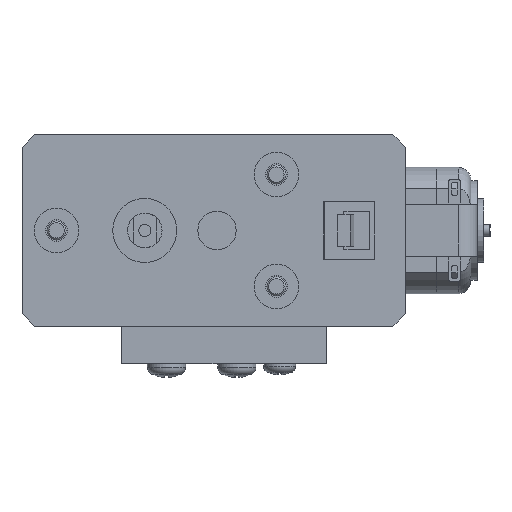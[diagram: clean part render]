
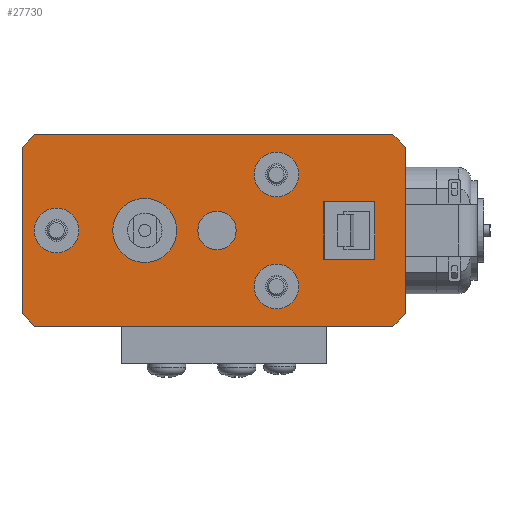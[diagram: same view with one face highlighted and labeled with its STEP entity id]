
A CAD part, front view. The second image highlights one B-rep face of the part: STEP entity #27730.
In plain terms, the highlighted planar face has unit normal (0, -1, 0).
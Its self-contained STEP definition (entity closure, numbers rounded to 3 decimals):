
#1699=FACE_BOUND('',#4503,.T.);
#1700=FACE_BOUND('',#4504,.T.);
#1701=FACE_BOUND('',#4505,.T.);
#1702=FACE_BOUND('',#4506,.T.);
#1703=FACE_BOUND('',#4507,.T.);
#1704=FACE_BOUND('',#4508,.T.);
#1892=PLANE('',#29781);
#2942=FACE_OUTER_BOUND('',#4502,.T.);
#4502=EDGE_LOOP('',(#19361,#19362,#19363,#19364,#19365,#19366,#19367,#19368));
#4503=EDGE_LOOP('',(#19369));
#4504=EDGE_LOOP('',(#19370));
#4505=EDGE_LOOP('',(#19371));
#4506=EDGE_LOOP('',(#19372,#19373,#19374,#19375));
#4507=EDGE_LOOP('',(#19376));
#4508=EDGE_LOOP('',(#19377));
#6236=LINE('',#36974,#9139);
#6242=LINE('',#36986,#9145);
#6246=LINE('',#36993,#9149);
#6256=LINE('',#37041,#9159);
#6258=LINE('',#37045,#9161);
#6261=LINE('',#37051,#9164);
#6262=LINE('',#37053,#9165);
#6263=LINE('',#37055,#9166);
#6264=LINE('',#37056,#9167);
#6265=LINE('',#37057,#9168);
#6266=LINE('',#37059,#9169);
#6267=LINE('',#37060,#9170);
#9139=VECTOR('',#31213,10.);
#9145=VECTOR('',#31221,10.);
#9149=VECTOR('',#31227,10.);
#9159=VECTOR('',#31281,10.);
#9161=VECTOR('',#31285,10.);
#9164=VECTOR('',#31290,10.);
#9165=VECTOR('',#31291,10.);
#9166=VECTOR('',#31292,10.);
#9167=VECTOR('',#31293,10.);
#9168=VECTOR('',#31294,10.);
#9169=VECTOR('',#31295,10.);
#9170=VECTOR('',#31296,10.);
#12032=CIRCLE('',#29762,3.5);
#12036=CIRCLE('',#29769,3.5);
#12040=CIRCLE('',#29776,3.5);
#12042=CIRCLE('',#29782,5.);
#12043=CIRCLE('',#29783,3.);
#12314=VERTEX_POINT('',#36971);
#12315=VERTEX_POINT('',#36973);
#12319=VERTEX_POINT('',#36983);
#12320=VERTEX_POINT('',#36985);
#12322=VERTEX_POINT('',#36991);
#12325=VERTEX_POINT('',#37001);
#12329=VERTEX_POINT('',#37014);
#12333=VERTEX_POINT('',#37027);
#12337=VERTEX_POINT('',#37038);
#12338=VERTEX_POINT('',#37040);
#12339=VERTEX_POINT('',#37044);
#12341=VERTEX_POINT('',#37050);
#12342=VERTEX_POINT('',#37052);
#12343=VERTEX_POINT('',#37054);
#12344=VERTEX_POINT('',#37058);
#12345=VERTEX_POINT('',#37061);
#12346=VERTEX_POINT('',#37063);
#15100=EDGE_CURVE('',#12315,#12314,#6236,.T.);
#15106=EDGE_CURVE('',#12319,#12320,#6242,.T.);
#15110=EDGE_CURVE('',#12314,#12322,#6246,.T.);
#15114=EDGE_CURVE('',#12325,#12325,#12032,.T.);
#15120=EDGE_CURVE('',#12329,#12329,#12036,.T.);
#15126=EDGE_CURVE('',#12333,#12333,#12040,.T.);
#15132=EDGE_CURVE('',#12337,#12338,#6256,.T.);
#15134=EDGE_CURVE('',#12338,#12339,#6258,.T.);
#15137=EDGE_CURVE('',#12341,#12337,#6261,.T.);
#15138=EDGE_CURVE('',#12342,#12341,#6262,.T.);
#15139=EDGE_CURVE('',#12343,#12342,#6263,.T.);
#15140=EDGE_CURVE('',#12320,#12343,#6264,.T.);
#15141=EDGE_CURVE('',#12339,#12319,#6265,.T.);
#15142=EDGE_CURVE('',#12322,#12344,#6266,.T.);
#15143=EDGE_CURVE('',#12344,#12315,#6267,.T.);
#15144=EDGE_CURVE('',#12345,#12345,#12042,.T.);
#15145=EDGE_CURVE('',#12346,#12346,#12043,.T.);
#19361=ORIENTED_EDGE('',*,*,#15132,.F.);
#19362=ORIENTED_EDGE('',*,*,#15137,.F.);
#19363=ORIENTED_EDGE('',*,*,#15138,.F.);
#19364=ORIENTED_EDGE('',*,*,#15139,.F.);
#19365=ORIENTED_EDGE('',*,*,#15140,.F.);
#19366=ORIENTED_EDGE('',*,*,#15106,.F.);
#19367=ORIENTED_EDGE('',*,*,#15141,.F.);
#19368=ORIENTED_EDGE('',*,*,#15134,.F.);
#19369=ORIENTED_EDGE('',*,*,#15114,.T.);
#19370=ORIENTED_EDGE('',*,*,#15120,.T.);
#19371=ORIENTED_EDGE('',*,*,#15126,.T.);
#19372=ORIENTED_EDGE('',*,*,#15142,.T.);
#19373=ORIENTED_EDGE('',*,*,#15143,.T.);
#19374=ORIENTED_EDGE('',*,*,#15100,.T.);
#19375=ORIENTED_EDGE('',*,*,#15110,.T.);
#19376=ORIENTED_EDGE('',*,*,#15144,.T.);
#19377=ORIENTED_EDGE('',*,*,#15145,.T.);
#27730=ADVANCED_FACE('',(#2942,#1699,#1700,#1701,#1702,#1703,#1704),#1892,
 .F.);
#29762=AXIS2_PLACEMENT_3D('',#37002,#31237,#31238);
#29769=AXIS2_PLACEMENT_3D('',#37015,#31253,#31254);
#29776=AXIS2_PLACEMENT_3D('',#37028,#31269,#31270);
#29781=AXIS2_PLACEMENT_3D('',#37049,#31288,#31289);
#29782=AXIS2_PLACEMENT_3D('',#37062,#31297,#31298);
#29783=AXIS2_PLACEMENT_3D('',#37064,#31299,#31300);
#31213=DIRECTION('',(0.,0.,1.));
#31221=DIRECTION('',(0.,0.,-1.));
#31227=DIRECTION('',(1.,0.,0.));
#31237=DIRECTION('center_axis',(0.,1.,0.));
#31238=DIRECTION('ref_axis',(1.,0.,0.));
#31253=DIRECTION('center_axis',(0.,1.,0.));
#31254=DIRECTION('ref_axis',(1.,0.,0.));
#31269=DIRECTION('center_axis',(0.,1.,0.));
#31270=DIRECTION('ref_axis',(1.,0.,0.));
#31281=DIRECTION('',(0.707,0.,0.707));
#31285=DIRECTION('',(1.,0.,0.));
#31288=DIRECTION('center_axis',(0.,1.,0.));
#31289=DIRECTION('ref_axis',(0.,0.,1.));
#31290=DIRECTION('',(0.,0.,1.));
#31291=DIRECTION('',(-0.707,0.,0.707));
#31292=DIRECTION('',(-1.,0.,0.));
#31293=DIRECTION('',(-0.707,0.,-0.707));
#31294=DIRECTION('',(0.707,0.,-0.707));
#31295=DIRECTION('',(0.,0.,-1.));
#31296=DIRECTION('',(-1.,0.,0.));
#31297=DIRECTION('center_axis',(0.,1.,0.));
#31298=DIRECTION('ref_axis',(1.,0.,0.));
#31299=DIRECTION('center_axis',(0.,1.,0.));
#31300=DIRECTION('ref_axis',(1.,0.,0.));
#36971=CARTESIAN_POINT('',(17.185,0.,4.5));
#36973=CARTESIAN_POINT('',(17.185,0.,-4.5));
#36974=CARTESIAN_POINT('',(17.185,0.,-2.25));
#36983=CARTESIAN_POINT('',(30.,0.,13.));
#36985=CARTESIAN_POINT('',(30.,0.,-13.));
#36986=CARTESIAN_POINT('',(30.,0.,15.));
#36991=CARTESIAN_POINT('',(25.185,0.,4.5));
#36993=CARTESIAN_POINT('',(8.592,0.,4.5));
#37001=CARTESIAN_POINT('',(6.3,0.,8.75));
#37002=CARTESIAN_POINT('Origin',(9.8,0.,8.75));
#37014=CARTESIAN_POINT('',(-28.1,0.,0.));
#37015=CARTESIAN_POINT('Origin',(-24.6,0.,0.));
#37027=CARTESIAN_POINT('',(6.3,0.,-8.75));
#37028=CARTESIAN_POINT('Origin',(9.8,0.,-8.75));
#37038=CARTESIAN_POINT('',(-30.,0.,13.));
#37040=CARTESIAN_POINT('',(-28.,0.,15.));
#37041=CARTESIAN_POINT('',(-25.25,0.,17.75));
#37044=CARTESIAN_POINT('',(28.,0.,15.));
#37045=CARTESIAN_POINT('',(-30.,0.,15.));
#37049=CARTESIAN_POINT('Origin',(0.,0.,0.));
#37050=CARTESIAN_POINT('',(-30.,0.,-13.));
#37051=CARTESIAN_POINT('',(-30.,0.,-15.));
#37052=CARTESIAN_POINT('',(-28.,0.,-15.));
#37053=CARTESIAN_POINT('',(-25.25,0.,-17.75));
#37054=CARTESIAN_POINT('',(28.,0.,-15.));
#37055=CARTESIAN_POINT('',(30.,0.,-15.));
#37056=CARTESIAN_POINT('',(25.25,0.,-17.75));
#37057=CARTESIAN_POINT('',(25.25,0.,17.75));
#37058=CARTESIAN_POINT('',(25.185,0.,-4.5));
#37059=CARTESIAN_POINT('',(25.185,0.,2.25));
#37060=CARTESIAN_POINT('',(12.592,0.,-4.5));
#37061=CARTESIAN_POINT('',(-15.8,0.,0.));
#37062=CARTESIAN_POINT('Origin',(-10.8,0.,0.));
#37063=CARTESIAN_POINT('',(-2.5,0.,0.));
#37064=CARTESIAN_POINT('Origin',(0.5,0.,0.));
